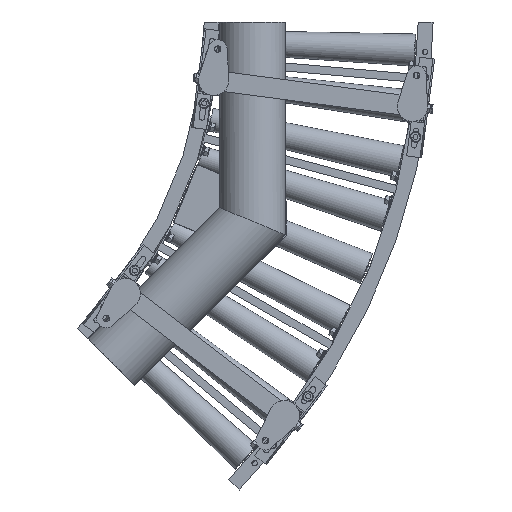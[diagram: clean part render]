
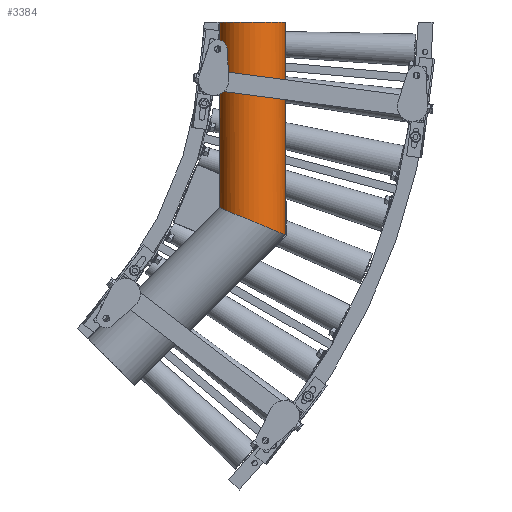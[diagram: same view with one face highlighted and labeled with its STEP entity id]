
A CAD part, front view. The second image highlights one B-rep face of the part: STEP entity #3384.
In plain terms, the highlighted cylindrical face has radius 67.024 mm (diameter 134.048 mm), a partial arc.
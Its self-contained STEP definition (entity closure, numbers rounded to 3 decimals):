
#3384=ADVANCED_FACE('',(#25760),#25759,.T.);
#25759=CYLINDRICAL_SURFACE('',#37314,67.024);
#25760=FACE_OUTER_BOUND('',#37315,.T.);
#37311=CARTESIAN_POINT('',(967.,-156.676,0.));
#37312=DIRECTION('',(0.,0.,1.));
#37313=DIRECTION('',(1.,0.,0.));
#37314=AXIS2_PLACEMENT_3D('',#37311,#37312,#37313);
#37315=EDGE_LOOP('',(#47924,#47925,#47926,#47927));
#47924=ORIENTED_EDGE('',*,*,#53231,.F.);
#47925=ORIENTED_EDGE('',*,*,#53238,.F.);
#47926=ORIENTED_EDGE('',*,*,#53242,.T.);
#47927=ORIENTED_EDGE('',*,*,#53232,.F.);
#53231=EDGE_CURVE('',#88402,#88375,#88409,.T.);
#53232=EDGE_CURVE('',#88375,#88415,#88416,.T.);
#53238=EDGE_CURVE('',#88455,#88402,#88456,.T.);
#53242=EDGE_CURVE('',#88455,#88415,#88481,.T.);
#88375=VERTEX_POINT('',#111338);
#88402=VERTEX_POINT('',#111353);
#88409=LINE('',#111357,#111358);
#88415=VERTEX_POINT('',#111360);
#88416=(BOUNDED_CURVE() B_SPLINE_CURVE(2,(#111361,#111362,#111363,#111364,#111365),.UNSPECIFIED.,.F.,.F.) B_SPLINE_CURVE_WITH_KNOTS((3,2,3),(0.147,1.571,2.994),.UNSPECIFIED.) CURVE() GEOMETRIC_REPRESENTATION_ITEM() RATIONAL_B_SPLINE_CURVE((1.,0.757,1.,0.757,1.)) REPRESENTATION_ITEM('') );
#88455=VERTEX_POINT('',#111385);
#88456=CIRCLE('',#111389,67.024);
#88481=LINE('',#111400,#111401);
#111338=CARTESIAN_POINT('',(1033.3,-166.5,-428.007));
#111353=CARTESIAN_POINT('',(1033.3,-166.5,0.));
#111357=CARTESIAN_POINT('',(1033.3,-166.5,0.));
#111358=VECTOR('',#111359,428.007);
#111359=DIRECTION('',(0.,0.,-1.));
#111360=CARTESIAN_POINT('',(900.7,-166.5,-373.082));
#111361=CARTESIAN_POINT('',(1033.3,-166.5,-428.007));
#111362=CARTESIAN_POINT('',(1024.825,-223.7,-424.496));
#111363=CARTESIAN_POINT('',(967.,-223.7,-400.545));
#111364=CARTESIAN_POINT('',(909.175,-223.7,-376.593));
#111365=CARTESIAN_POINT('',(900.7,-166.5,-373.082));
#111385=CARTESIAN_POINT('',(900.7,-166.5,0.));
#111386=CARTESIAN_POINT('',(967.,-156.676,0.));
#111387=DIRECTION('',(0.,0.,1.));
#111388=DIRECTION('',(-1.,0.,0.));
#111389=AXIS2_PLACEMENT_3D('',#111386,#111387,#111388);
#111400=CARTESIAN_POINT('',(900.7,-166.5,0.));
#111401=VECTOR('',#111402,373.082);
#111402=DIRECTION('',(0.,0.,-1.));
